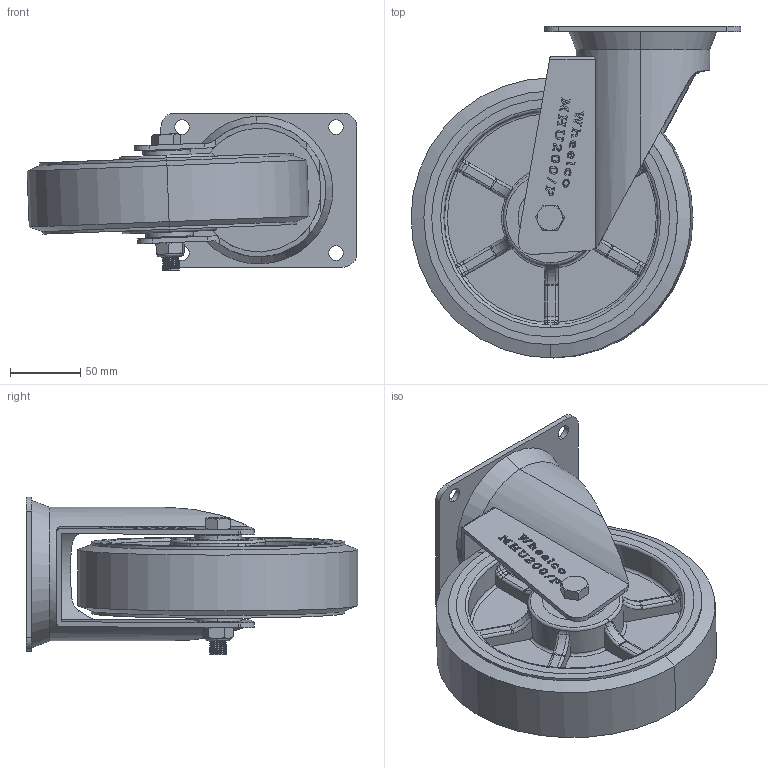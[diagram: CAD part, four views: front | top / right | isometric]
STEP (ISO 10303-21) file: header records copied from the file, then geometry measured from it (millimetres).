
FILE_DESCRIPTION (( 'STEP AP214' ), '1' );
FILE_NAME ('MHU200-P.step', '2023-12-04T19:34:57', ( '' ), ( '' ), 'SwSTEP 2.0', 'SolidWorks 2022', '' );
FILE_SCHEMA (( 'AUTOMOTIVE_DESIGN' ));
Length unit declared in the file: millimetre
Products named in the file (8): M12NYLOC; MHU200-P; 140X110 PLATE; 20mm Plastic Washer BLACK; SP20-12-62; M12 X 90; MHU200
Assembly tree (8 placements, depth 2):
  MHU200-P
    MHU200-P
    M12 X 90
    M12NYLOC
    SP20-12-62
    MHU200
    20mm Plastic Washer BLACK  x2
    140X110 PLATE
Bounding box: 235.65 x 237 x 112.7 mm (x, y, z)
Volume: 1204807.3 mm3; surface area: 258517.6 mm2
Topology: 8 solids, 8 shells, 813 faces, 2120 edges, 1353 vertices
Faces by surface type: plane 293, bspline 244, cylinder 136, torus 118, cone 22
Entity records: 40886 total; most frequent: CARTESIAN_POINT 21563, ORIENTED_EDGE 4216, DIRECTION 3021, EDGE_CURVE 2108, VERTEX_POINT 1345, AXIS2_PLACEMENT_3D 1065, VECTOR 891, LINE 891
